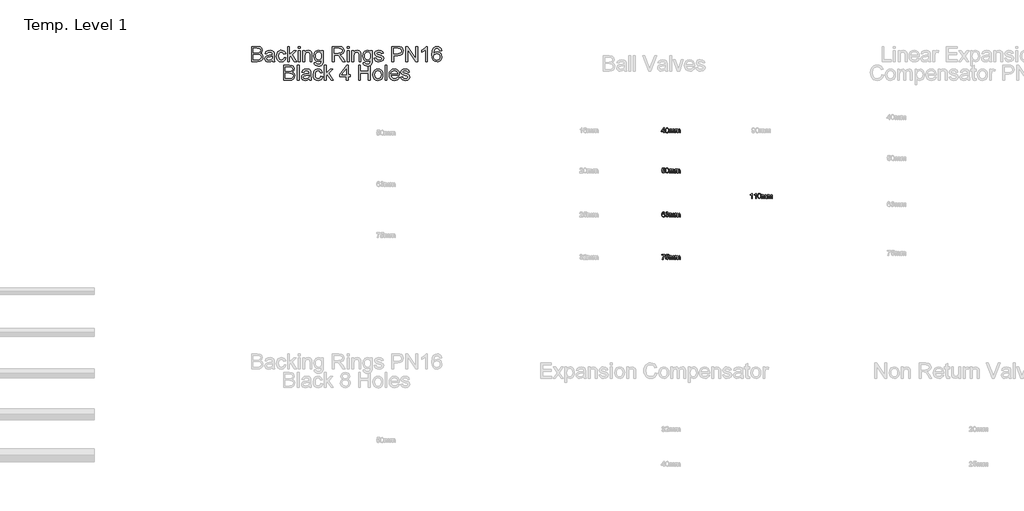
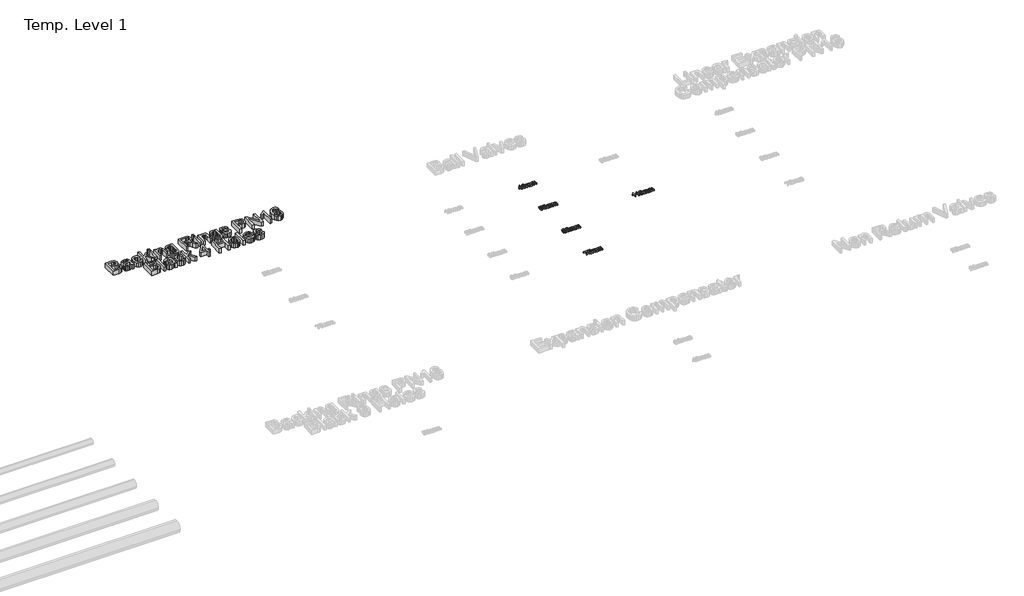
# One storey, part 55 of 62: 6 proxies.
"""IFC4 building model written with IfcOpenShell, lengths in millimetres."""

from ifc_helpers import new_model, si_unit, origin, origin_with_axes, place, context, project, spatial, polyline, outline, extrude, element, save

model = new_model("IFC4")

# Units and contexts
model_context = context("Model", 3, world=origin())
ifc_project = project(units=[si_unit("LENGTHUNIT", "METRE", prefix="MILLI")], contexts=[model_context])

# Site, building, storey
site = spatial("IfcSite", under=ifc_project)
building = spatial("IfcBuilding", under=site)
storey = spatial("IfcBuildingStorey", under=building, Name="Temp. Level 1", Elevation=0.0)

# Proxies
placement = place(None, origin())
element("IfcBuildingElementProxy", 1, Name="150mm Arial", ObjectType="150mm Arial", at=placement, inside=storey, context=model_context, shape_type="SweptSolid", body=[
    extrude(outline(polyline([(8496.1176365, 2020.9553291), (8496.1176365, 2168.6476368), (8552.4758096, 2168.6476368), (8580.0779731, 2164.3026849), (8589.3538144, 2158.7903652), (8596.37605, 2150.9433099), (8602.2714827, 2132.0490791), (8597.31355, 2114.7954734), (8582.3315788, 2101.7245599), (8592.7928168, 2096.2618195), (8600.5226846, 2087.9505214), (8605.2958216, 2077.3405455), (8606.8868673, 2064.9817714), (8602.5419154, 2045.1320118), (8591.7786942, 2030.9973964), (8575.7149923, 2023.4973964), (8552.0431173, 2020.9553291), (8496.1176365, 2020.9553291)]), holes=[polyline([(8514.579175, 2039.4168676), (8552.4397519, 2039.4168676), (8566.141675, 2040.1380214), (8577.7342231, 2044.1584541), (8585.4145115, 2052.3615791), (8588.4253288, 2064.801483), (8584.891675, 2079.1524445), (8573.4433577, 2087.7161464), (8550.6368673, 2090.1860984), (8514.579175, 2090.1860984), (8514.579175, 2039.4168676)]), polyline([(8514.579175, 2108.6476368), (8548.2931173, 2108.6476368), (8567.9806173, 2110.2341753), (8579.8255692, 2117.067108), (8583.8099442, 2129.0923484), (8580.0960019, 2141.1356176), (8569.4589827, 2148.2570118), (8545.7330212, 2150.1860984), (8514.579175, 2150.1860984), (8514.579175, 2108.6476368)])]), origin_with_axes(), (0.0, 0.0, 1.0), 50.0),
    extrude(outline(polyline([(8699.1945596, 2034.801483), (8681.2919154, 2022.2894638), (8661.5142712, 2018.6476368), (8646.0860861, 2020.8381416), (8634.7053769, 2027.4096561), (8627.6876486, 2037.3886224), (8625.3484058, 2049.801483), (8628.8820596, 2064.4048484), (8638.1669154, 2075.0058099), (8651.0935981, 2081.0635022), (8667.0671558, 2083.8399445), (8699.0863865, 2090.1860984), (8699.1945596, 2094.2966753), (8697.923526, 2102.535858), (8694.110425, 2107.926483), (8685.5827808, 2111.9288868), (8673.7017712, 2113.2630214), (8655.0238865, 2109.7113388), (8646.1176365, 2097.1091753), (8627.6560981, 2099.4168676), (8635.6428769, 2117.4457138), (8651.7246077, 2128.0106176), (8676.0815788, 2131.7245599), (8698.4553769, 2128.4433099), (8711.0935981, 2120.2041272), (8716.7546558, 2107.6740791), (8717.6560981, 2091.520233), (8717.6560981, 2068.551483), (8718.5935981, 2036.4781657), (8722.2714827, 2020.9553291), (8703.8099442, 2020.9553291), (8699.1945596, 2034.801483)]), holes=[polyline([(8699.1945596, 2071.7245599), (8669.4109058, 2066.0635022), (8653.5274923, 2063.0707138), (8646.3339827, 2058.2029253), (8643.8099442, 2051.0995599), (8649.3087423, 2041.1115791), (8665.4445596, 2037.1091753), (8684.1224442, 2041.5262426), (8696.1657135, 2052.2173484), (8699.0863865, 2066.4961945), (8699.1945596, 2071.7245599)])]), origin_with_axes(), (0.0, 0.0, 1.0), 50.0),
    extrude(outline(polyline([(8812.2714827, 2060.1860984), (8830.7330212, 2057.8784061), (8825.5857856, 2041.4586344), (8815.9133096, 2029.0502811), (8802.62605, 2021.2482979), (8786.6344635, 2018.6476368), (8766.9965428, 2022.2759421), (8751.6404731, 2033.160858), (8741.7291149, 2050.82462), (8738.4253288, 2074.7894638), (8744.0683577, 2105.4565311), (8751.1897519, 2116.9544277), (8761.2678769, 2125.1620599), (8773.3246678, 2130.0839349), (8786.3820596, 2131.7245599), (8801.9815188, 2129.4709541), (8814.4529731, 2122.7101368), (8823.399788, 2111.8026849), (8828.4253288, 2097.1091753), (8809.9637904, 2094.801483), (8801.4000885, 2108.629608), (8786.5262904, 2113.2630214), (8774.5957014, 2110.9823724), (8765.12605, 2104.1404253), (8758.946663, 2092.3675888), (8756.8868673, 2075.2942714), (8758.9015909, 2057.9910863), (8764.9457615, 2046.1776849), (8774.2441389, 2039.3763027), (8786.0214827, 2037.1091753), (8795.5812784, 2038.5244397), (8803.4193192, 2042.770233), (8809.1209418, 2049.9547282), (8812.2714827, 2060.1860984)])), origin_with_axes(), (0.0, 0.0, 1.0), 50.0),
    extrude(outline(polyline([(8846.8868673, 2020.9553291), (8846.8868673, 2168.6476368), (8865.3484058, 2168.6476368), (8865.3484058, 2089.2846561), (8906.7426365, 2129.4168676), (8932.2714827, 2129.4168676), (8890.3724442, 2088.7798484), (8934.579175, 2020.9553291), (8913.016675, 2020.9553291), (8877.1392712, 2075.9433099), (8865.3484058, 2064.5130214), (8865.3484058, 2020.9553291), (8846.8868673, 2020.9553291)])), origin_with_axes(), (0.0, 0.0, 1.0), 50.0),
    extrude(outline(polyline([(8950.7330212, 2020.9553291), (8950.7330212, 2129.4168676), (8969.1945596, 2129.4168676), (8969.1945596, 2020.9553291), (8950.7330212, 2020.9553291)])), origin_with_axes(), (0.0, 0.0, 1.0), 50.0),
    extrude(outline(polyline([(8950.7330212, 2150.1860984), (8950.7330212, 2168.6476368), (8969.1945596, 2168.6476368), (8969.1945596, 2150.1860984), (8950.7330212, 2150.1860984)])), origin_with_axes(), (0.0, 0.0, 1.0), 50.0),
    extrude(outline(polyline([(8996.8868673, 2020.9553291), (8996.8868673, 2129.4168676), (9015.3484058, 2129.4168676), (9015.3484058, 2114.2726368), (9029.4649923, 2127.3615791), (9048.7378288, 2131.7245599), (9066.1717231, 2128.2089349), (9078.0707615, 2118.9781657), (9083.6056173, 2105.4024445), (9084.579175, 2087.5538868), (9084.579175, 2020.9553291), (9066.1176365, 2020.9553291), (9066.1176365, 2085.0659061), (9063.9902327, 2101.4000407), (9056.4722038, 2110.035858), (9043.797925, 2113.2630214), (9032.9851245, 2111.4511224), (9023.7678769, 2106.0154253), (9017.4532736, 2095.5136224), (9015.3484058, 2078.5034061), (9015.3484058, 2020.9553291), (8996.8868673, 2020.9553291)])), origin_with_axes(), (0.0, 0.0, 1.0), 50.0),
    extrude(outline(polyline([(9105.3484058, 2011.7245599), (9123.8099442, 2009.4168676), (9129.7955212, 1999.6812907), (9147.7161942, 1995.5707138), (9166.610425, 2000.2221561), (9175.6248481, 2013.2750407), (9176.8868673, 2034.801483), (9163.8880692, 2024.4168676), (9148.0407135, 2020.9553291), (9129.0067591, 2024.9847763), (9114.81355, 2037.0731176), (9105.9839226, 2054.7954734), (9103.0407135, 2075.7269638), (9108.3231654, 2104.3387426), (9114.7865067, 2115.9538267), (9123.6116269, 2124.5851368), (9134.4965428, 2129.9397041), (9147.1392712, 2131.7245599), (9163.6086221, 2127.6860984), (9176.8868673, 2115.5707138), (9176.8868673, 2129.4168676), (9195.3484058, 2129.4168676), (9195.3484058, 2035.7750407), (9194.0863865, 2014.1539469), (9190.3003288, 1999.9156657), (9183.7783938, 1990.4730575), (9174.3087423, 1983.238983), (9162.0987063, 1978.6416272), (9147.3556173, 1977.1091753), (9130.1786341, 1979.2681296), (9116.6524923, 1985.7449926), (9107.9761101, 1996.5577931), (9105.3484058, 2011.7245599)]), holes=[polyline([(9121.5022519, 2076.988983), (9123.4719034, 2060.0553892), (9129.3808577, 2048.4132618), (9138.2645716, 2041.6659662), (9149.1585019, 2039.4168676), (9159.9713024, 2041.6524445), (9168.9000885, 2048.3591753), (9174.8901726, 2059.8525647), (9176.8868673, 2076.4481176), (9174.8315788, 2092.4532258), (9168.6657135, 2103.9781657), (9159.6062183, 2110.9418075), (9148.8700404, 2113.2630214), (9138.3276726, 2110.9778652), (9129.4890308, 2104.1223964), (9123.4989466, 2092.7687306), (9121.5022519, 2076.988983)])]), origin_with_axes(), (0.0, 0.0, 1.0), 50.0),
    extrude(outline(polyline([(9283.0407135, 2020.9553291), (9283.0407135, 2168.6476368), (9346.6825404, 2168.6476368), (9376.2318192, 2164.6632618), (9385.3273721, 2159.1464349), (9392.3856654, 2150.5647041), (9396.915413, 2139.9231777), (9398.4253288, 2128.2269638), (9395.9238264, 2113.6776849), (9388.4193192, 2101.6163868), (9375.6864466, 2092.7732378), (9357.4998481, 2087.8784061), (9367.9926365, 2079.9817714), (9382.9565788, 2060.9793676), (9407.5839827, 2020.9553291), (9386.1296558, 2020.9553291), (9366.9109058, 2051.5683099), (9353.0286942, 2071.832733), (9343.2750885, 2081.4060503), (9334.4950404, 2084.9216753), (9323.7859058, 2085.5707138), (9301.5022519, 2085.5707138), (9301.5022519, 2020.9553291), (9283.0407135, 2020.9553291)]), holes=[polyline([(9301.5022519, 2104.0322522), (9342.8243673, 2104.0322522), (9363.9000885, 2106.6464349), (9375.8712423, 2115.0118195), (9379.9637904, 2127.5418676), (9378.0121678, 2136.5472763), (9372.1573, 2143.8038868), (9362.0836822, 2148.5905455), (9347.4758096, 2150.1860984), (9301.5022519, 2150.1860984), (9301.5022519, 2104.0322522)])]), origin_with_axes(), (0.0, 0.0, 1.0), 50.0),
    extrude(outline(polyline([(9428.4253288, 2020.9553291), (9428.4253288, 2129.4168676), (9446.8868673, 2129.4168676), (9446.8868673, 2020.9553291), (9428.4253288, 2020.9553291)])), origin_with_axes(), (0.0, 0.0, 1.0), 50.0),
    extrude(outline(polyline([(9428.4253288, 2150.1860984), (9428.4253288, 2168.6476368), (9446.8868673, 2168.6476368), (9446.8868673, 2150.1860984), (9428.4253288, 2150.1860984)])), origin_with_axes(), (0.0, 0.0, 1.0), 50.0),
    extrude(outline(polyline([(9474.579175, 2020.9553291), (9474.579175, 2129.4168676), (9493.0407135, 2129.4168676), (9493.0407135, 2114.2726368), (9507.1573, 2127.3615791), (9526.4301365, 2131.7245599), (9543.8640308, 2128.2089349), (9555.7630692, 2118.9781657), (9561.297925, 2105.4024445), (9562.2714827, 2087.5538868), (9562.2714827, 2020.9553291), (9543.8099442, 2020.9553291), (9543.8099442, 2085.0659061), (9541.6825404, 2101.4000407), (9534.1645115, 2110.035858), (9521.4902327, 2113.2630214), (9510.6774322, 2111.4511224), (9501.4601846, 2106.0154253), (9495.1455813, 2095.5136224), (9493.0407135, 2078.5034061), (9493.0407135, 2020.9553291), (9474.579175, 2020.9553291)])), origin_with_axes(), (0.0, 0.0, 1.0), 50.0),
    extrude(outline(polyline([(9583.0407135, 2011.7245599), (9601.5022519, 2009.4168676), (9607.4878288, 1999.6812907), (9625.4085019, 1995.5707138), (9644.3027327, 2000.2221561), (9653.3171558, 2013.2750407), (9654.579175, 2034.801483), (9641.5803769, 2024.4168676), (9625.7330212, 2020.9553291), (9606.6990668, 2024.9847763), (9592.5058577, 2037.0731176), (9583.6762303, 2054.7954734), (9580.7330212, 2075.7269638), (9586.0154731, 2104.3387426), (9592.4788144, 2115.9538267), (9601.3039346, 2124.5851368), (9612.1888505, 2129.9397041), (9624.8315788, 2131.7245599), (9641.3009298, 2127.6860984), (9654.579175, 2115.5707138), (9654.579175, 2129.4168676), (9673.0407135, 2129.4168676), (9673.0407135, 2035.7750407), (9671.7786942, 2014.1539469), (9667.9926365, 1999.9156657), (9661.4707014, 1990.4730575), (9652.00105, 1983.238983), (9639.7910139, 1978.6416272), (9625.047925, 1977.1091753), (9607.8709418, 1979.2681296), (9594.3448, 1985.7449926), (9585.6684178, 1996.5577931), (9583.0407135, 2011.7245599)]), holes=[polyline([(9599.1945596, 2076.988983), (9601.1642111, 2060.0553892), (9607.0731654, 2048.4132618), (9615.9568793, 2041.6659662), (9626.8508096, 2039.4168676), (9637.6636101, 2041.6524445), (9646.5923962, 2048.3591753), (9652.5824803, 2059.8525647), (9654.579175, 2076.4481176), (9652.5238865, 2092.4532258), (9646.3580212, 2103.9781657), (9637.298526, 2110.9418075), (9626.5623481, 2113.2630214), (9616.0199803, 2110.9778652), (9607.1813385, 2104.1223964), (9601.1912543, 2092.7687306), (9599.1945596, 2076.988983)])]), origin_with_axes(), (0.0, 0.0, 1.0), 50.0),
    extrude(outline(polyline([(9693.8099442, 2053.2630214), (9712.2714827, 2055.5707138), (9715.1831413, 2047.6740791), (9720.8171558, 2041.8687907), (9740.3964827, 2037.1091753), (9759.2185981, 2041.4721561), (9765.3484058, 2051.7125407), (9759.1825404, 2060.0058099), (9740.1801365, 2065.270233), (9712.3796558, 2074.3026849), (9700.2462423, 2084.8495599), (9696.1176365, 2099.7413868), (9699.4349442, 2113.4973964), (9708.485425, 2124.0082138), (9720.2222038, 2129.4709541), (9736.1056173, 2131.7245599), (9758.5695596, 2128.1007618), (9772.8484058, 2118.2930695), (9779.1945596, 2101.7245599), (9760.7330212, 2099.4168676), (9753.7919154, 2109.6031657), (9737.547925, 2113.2630214), (9719.8796558, 2109.7654253), (9714.579175, 2101.6163868), (9716.7786942, 2096.2437907), (9723.6657135, 2092.1692714), (9739.5671558, 2088.238983), (9766.6645115, 2079.5490791), (9779.2486462, 2069.7053291), (9783.8099442, 2053.6596561), (9778.4553769, 2035.9913868), (9763.0046558, 2023.1728772), (9740.1440788, 2018.6476368), (9721.5292952, 2020.8291272), (9707.9445596, 2027.3735984), (9698.87605, 2038.2089349), (9693.8099442, 2053.2630214)])), origin_with_axes(), (0.0, 0.0, 1.0), 50.0),
    extrude(outline(polyline([(9864.579175, 2020.9553291), (9864.579175, 2168.6476368), (9919.3147519, 2168.6476368), (9941.3820596, 2167.2413868), (9959.3207615, 2160.3363388), (9970.9493673, 2146.0574926), (9975.3484058, 2125.9192714), (9972.3781534, 2108.5124205), (9963.4673962, 2094.0082138), (9946.8042351, 2084.2185503), (9920.5767712, 2080.9553291), (9883.0407135, 2080.9553291), (9883.0407135, 2020.9553291), (9864.579175, 2020.9553291)]), holes=[polyline([(9883.0407135, 2099.4168676), (9921.6585019, 2099.4168676), (9938.0286942, 2101.1115791), (9948.8460019, 2106.1957138), (9954.876651, 2114.3537666), (9956.8868673, 2125.270233), (9952.1452808, 2140.5586945), (9939.6873481, 2148.9240791), (9921.2258096, 2150.1860984), (9883.0407135, 2150.1860984), (9883.0407135, 2099.4168676)])]), origin_with_axes(), (0.0, 0.0, 1.0), 50.0),
    extrude(outline(polyline([(10000.7330212, 2020.9553291), (10000.7330212, 2168.6476368), (10020.4926365, 2168.6476368), (10097.6560981, 2051.6404253), (10097.6560981, 2168.6476368), (10116.1176365, 2168.6476368), (10116.1176365, 2020.9553291), (10096.3580212, 2020.9553291), (10019.1945596, 2137.9985984), (10019.1945596, 2020.9553291), (10000.7330212, 2020.9553291)])), origin_with_axes(), (0.0, 0.0, 1.0), 50.0),
    extrude(outline(polyline([(10210.7330212, 2020.9553291), (10192.2714827, 2020.9553291), (10192.2714827, 2136.051483), (10174.7835019, 2123.5935503), (10155.3484058, 2114.2726368), (10155.3484058, 2131.7245599), (10182.4097038, 2148.9961945), (10198.8339827, 2168.6476368), (10210.7330212, 2168.6476368), (10210.7330212, 2020.9553291)])), origin_with_axes(), (0.0, 0.0, 1.0), 50.0),
    extrude(outline(polyline([(10349.1945596, 2129.4168676), (10330.7330212, 2127.1091753), (10323.7378288, 2142.5058099), (10315.3634298, 2148.2660263), (10305.2402327, 2150.1860984), (10288.5815788, 2145.7149445), (10275.9794154, 2128.9300888), (10272.1527928, 2115.1785863), (10270.7330212, 2096.0274445), (10287.0130692, 2110.7570118), (10307.1873481, 2115.5707138), (10324.2426365, 2112.2804493), (10338.5575404, 2102.4096561), (10348.266074, 2087.3285263), (10351.5022519, 2068.4072522), (10349.9788144, 2055.1876008), (10345.4085019, 2042.9324926), (10338.1699202, 2032.5388628), (10328.641675, 2024.9036464), (10317.2564587, 2020.2116392), (10304.4469635, 2018.6476368), (10283.5019514, 2022.7942714), (10266.8207615, 2035.2341753), (10255.9088024, 2057.1933099), (10252.2714827, 2089.8976368), (10256.3099442, 2126.6674686), (10268.4253288, 2151.8086945), (10284.9667952, 2164.4379013), (10306.3940788, 2168.6476368), (10322.5929971, 2166.0424686), (10335.5647519, 2158.2269638), (10344.6512904, 2145.8141032), (10349.1945596, 2129.4168676)]), holes=[polyline([(10270.7330212, 2068.6957138), (10275.0058577, 2052.7041272), (10286.3640308, 2041.0935503), (10303.0046558, 2037.1091753), (10315.1876486, 2039.1734782), (10324.7654731, 2045.3663868), (10330.9719034, 2055.1019638), (10333.0407135, 2067.7942714), (10330.9989466, 2079.9772642), (10324.8736462, 2089.2666272), (10315.133562, 2095.1485383), (10302.2474442, 2097.1091753), (10290.0824803, 2095.1485383), (10279.9097038, 2089.2666272), (10273.0271918, 2080.2026248), (10270.7330212, 2068.6957138)])]), origin_with_axes(), (0.0, 0.0, 1.0), 50.0),
    extrude(outline(polyline([(8807.6560981, 1838.6476368), (8807.6560981, 1986.3399445), (8864.0142712, 1986.3399445), (8891.6164346, 1981.9949926), (8900.892276, 1976.4826729), (8907.9145115, 1968.6356176), (8913.8099442, 1949.7413868), (8908.8520115, 1932.4877811), (8893.8700404, 1919.4168676), (8904.3312784, 1913.9541272), (8912.0611462, 1905.6428291), (8916.8342832, 1895.0328532), (8918.4253288, 1882.6740791), (8914.0803769, 1862.8243195), (8903.3171558, 1848.6897041), (8887.2534538, 1841.1897041), (8863.5815788, 1838.6476368), (8807.6560981, 1838.6476368)]), holes=[polyline([(8826.1176365, 1926.3399445), (8859.8315788, 1926.3399445), (8879.5190788, 1927.926483), (8891.3640308, 1934.7594157), (8895.3484058, 1946.7846561), (8891.6344635, 1958.8279253), (8880.9974442, 1965.9493195), (8857.2714827, 1967.8784061), (8826.1176365, 1967.8784061), (8826.1176365, 1926.3399445)]), polyline([(8826.1176365, 1857.1091753), (8863.9782135, 1857.1091753), (8877.6801365, 1857.8303291), (8889.2726846, 1861.8507618), (8896.9529731, 1870.0538868), (8899.9637904, 1882.4937907), (8896.4301365, 1896.8447522), (8884.9818192, 1905.4084541), (8862.1753288, 1907.8784061), (8826.1176365, 1907.8784061), (8826.1176365, 1857.1091753)])]), origin_with_axes(), (0.0, 0.0, 1.0), 50.0),
    extrude(outline(polyline([(8941.5022519, 1838.6476368), (8941.5022519, 1986.3399445), (8959.9637904, 1986.3399445), (8959.9637904, 1838.6476368), (8941.5022519, 1838.6476368)])), origin_with_axes(), (0.0, 0.0, 1.0), 50.0),
    extrude(outline(polyline([(9056.8868673, 1852.4937907), (9038.9842231, 1839.9817714), (9019.2065788, 1836.3399445), (9003.7783938, 1838.5304493), (8992.3976846, 1845.1019638), (8985.3799563, 1855.0809301), (8983.0407135, 1867.4937907), (8986.5743673, 1882.0971561), (8995.8592231, 1892.6981176), (9008.7859058, 1898.7558099), (9024.7594635, 1901.5322522), (9056.7786942, 1907.8784061), (9056.8868673, 1911.988983), (9055.6158337, 1920.2281657), (9051.8027327, 1925.6187907), (9043.2750885, 1929.6211945), (9031.3940788, 1930.9553291), (9012.7161942, 1927.4036464), (9003.8099442, 1914.801483), (8985.3484058, 1917.1091753), (8993.3351846, 1935.1380214), (9009.4169154, 1945.7029253), (9033.7738865, 1949.4168676), (9056.1476846, 1946.1356176), (9068.7859058, 1937.8964349), (9074.4469635, 1925.3663868), (9075.3484058, 1909.2125407), (9075.3484058, 1886.2437907), (9076.2859058, 1854.1704734), (9079.9637904, 1838.6476368), (9061.5022519, 1838.6476368), (9056.8868673, 1852.4937907)]), holes=[polyline([(9056.8868673, 1889.4168676), (9027.1032135, 1883.7558099), (9011.2198, 1880.7630214), (9004.0262904, 1875.895233), (9001.5022519, 1868.7918676), (9007.00105, 1858.8038868), (9023.1368673, 1854.801483), (9041.8147519, 1859.2185503), (9053.8580212, 1869.9096561), (9056.7786942, 1884.1885022), (9056.8868673, 1889.4168676)])]), origin_with_axes(), (0.0, 0.0, 1.0), 50.0),
    extrude(outline(polyline([(9169.9637904, 1877.8784061), (9188.4253288, 1875.5707138), (9183.2780933, 1859.1509421), (9173.6056173, 1846.7425888), (9160.3183577, 1838.9406056), (9144.3267712, 1836.3399445), (9124.6888505, 1839.9682498), (9109.3327808, 1850.8531657), (9099.4214226, 1868.5169277), (9096.1176365, 1892.4817714), (9101.7606654, 1923.1488388), (9108.8820596, 1934.6467354), (9118.9601846, 1942.8543676), (9131.0169755, 1947.7762426), (9144.0743673, 1949.4168676), (9159.6738264, 1947.1632618), (9172.1452808, 1940.4024445), (9181.0920957, 1929.4949926), (9186.1176365, 1914.801483), (9167.6560981, 1912.4937907), (9159.0923962, 1926.3219157), (9144.2185981, 1930.9553291), (9132.2880091, 1928.6746801), (9122.8183577, 1921.832733), (9116.6389707, 1910.0598964), (9114.579175, 1892.9865791), (9116.5938986, 1875.683394), (9122.6380692, 1863.8699926), (9131.9364466, 1857.0686104), (9143.7137904, 1854.801483), (9153.2735861, 1856.2167474), (9161.1116269, 1860.4625407), (9166.8132495, 1867.6470359), (9169.9637904, 1877.8784061)])), origin_with_axes(), (0.0, 0.0, 1.0), 50.0),
    extrude(outline(polyline([(9204.579175, 1838.6476368), (9204.579175, 1986.3399445), (9223.0407135, 1986.3399445), (9223.0407135, 1906.9769638), (9264.4349442, 1947.1091753), (9289.9637904, 1947.1091753), (9248.0647519, 1906.4721561), (9292.2714827, 1838.6476368), (9270.7089827, 1838.6476368), (9234.8315788, 1893.6356176), (9223.0407135, 1882.2053291), (9223.0407135, 1838.6476368), (9204.579175, 1838.6476368)])), origin_with_axes(), (0.0, 0.0, 1.0), 50.0),
    extrude(outline(polyline([(9421.5022519, 1838.6476368), (9421.5022519, 1873.2630214), (9354.579175, 1873.2630214), (9354.579175, 1891.7245599), (9426.1176365, 1984.0322522), (9439.9637904, 1984.0322522), (9439.9637904, 1891.7245599), (9458.4253288, 1891.7245599), (9458.4253288, 1873.2630214), (9439.9637904, 1873.2630214), (9439.9637904, 1838.6476368), (9421.5022519, 1838.6476368)]), holes=[polyline([(9421.5022519, 1891.7245599), (9421.5022519, 1948.7678291), (9377.2955212, 1891.7245599), (9421.5022519, 1891.7245599)])]), origin_with_axes(), (0.0, 0.0, 1.0), 50.0),
    extrude(outline(polyline([(9539.1945596, 1838.6476368), (9539.1945596, 1986.3399445), (9557.6560981, 1986.3399445), (9557.6560981, 1926.3399445), (9636.1176365, 1926.3399445), (9636.1176365, 1986.3399445), (9654.579175, 1986.3399445), (9654.579175, 1838.6476368), (9636.1176365, 1838.6476368), (9636.1176365, 1907.8784061), (9557.6560981, 1907.8784061), (9557.6560981, 1838.6476368), (9539.1945596, 1838.6476368)])), origin_with_axes(), (0.0, 0.0, 1.0), 50.0),
    extrude(outline(polyline([(9679.9637904, 1892.8784061), (9683.9571798, 1919.0292474), (9695.9373481, 1937.4096561), (9710.7390308, 1946.4150647), (9728.4613865, 1949.4168676), (9747.8559178, 1945.761519), (9763.3472038, 1934.7954734), (9773.5019514, 1917.3841152), (9776.8868673, 1894.3928291), (9775.3904731, 1875.7419878), (9770.9012904, 1861.5442714), (9763.5500284, 1850.9117594), (9753.4673962, 1842.9565311), (9741.4917351, 1837.9940912), (9728.4613865, 1836.3399445), (9708.8324803, 1839.9817714), (9693.3592231, 1850.9072522), (9683.3126486, 1868.6836945), (9679.9637904, 1892.8784061)]), holes=[polyline([(9698.4253288, 1892.9144638), (9700.5617471, 1876.2062306), (9706.9710019, 1864.3026849), (9716.6164346, 1857.1767835), (9728.4613865, 1854.801483), (9740.2522519, 1857.1903051), (9749.8796558, 1864.3567714), (9756.2889106, 1876.4180695), (9758.4253288, 1893.4913868), (9756.2753889, 1909.7128412), (9749.8255692, 1921.4541272), (9740.1846438, 1928.5800287), (9728.4613865, 1930.9553291), (9716.6164346, 1928.5890431), (9706.9710019, 1921.4901849), (9700.5617471, 1909.6136825), (9698.4253288, 1892.9144638)])]), origin_with_axes(), (0.0, 0.0, 1.0), 50.0),
    extrude(outline(polyline([(9797.6560981, 1838.6476368), (9797.6560981, 1986.3399445), (9816.1176365, 1986.3399445), (9816.1176365, 1838.6476368), (9797.6560981, 1838.6476368)])), origin_with_axes(), (0.0, 0.0, 1.0), 50.0),
    extrude(outline(polyline([(9919.7474442, 1870.9553291), (9937.8484058, 1868.6476368), (9931.3264707, 1855.0088147), (9920.9193192, 1844.8135022), (9906.8613264, 1838.4583339), (9889.3868673, 1836.3399445), (9867.7252087, 1839.9952931), (9851.0575404, 1850.9613388), (9840.4295356, 1868.5259421), (9836.8868673, 1891.9769638), (9840.4655933, 1916.2167474), (9851.2017712, 1934.3447522), (9867.6440788, 1945.6488388), (9888.3411942, 1949.4168676), (9908.3937784, 1945.6578532), (9924.4169154, 1934.3808099), (9934.9232255, 1916.2888628), (9938.4253288, 1892.0851368), (9938.3171558, 1887.1091753), (9855.3484058, 1887.1091753), (9858.5440188, 1873.2900647), (9865.9673962, 1863.1308099), (9876.681038, 1856.8838147), (9889.7474442, 1854.801483), (9907.8484058, 1858.6596561), (9919.7474442, 1870.9553291)]), holes=[polyline([(9855.3484058, 1905.5707138), (9919.9637904, 1905.5707138), (9917.4667952, 1915.3243195), (9912.5719635, 1922.301483), (9901.8087423, 1928.7918676), (9888.2690788, 1930.9553291), (9875.8246678, 1929.2290671), (9865.5347038, 1924.0502811), (9858.3817591, 1915.9778652), (9855.3484058, 1905.5707138)])]), origin_with_axes(), (0.0, 0.0, 1.0), 50.0),
    extrude(outline(polyline([(9949.9637904, 1870.9553291), (9968.4253288, 1873.2630214), (9971.3369875, 1865.3663868), (9976.9710019, 1859.5610984), (9996.5503288, 1854.801483), (10015.3724442, 1859.1644638), (10021.5022519, 1869.4048484), (10015.3363865, 1877.6981176), (9996.3339827, 1882.9625407), (9968.5335019, 1891.9949926), (9956.4000885, 1902.5418676), (9952.2714827, 1917.4336945), (9955.5887904, 1931.1897041), (9964.6392712, 1941.7005214), (9976.37605, 1947.1632618), (9992.2594635, 1949.4168676), (10014.7234058, 1945.7930695), (10029.0022519, 1935.9853772), (10035.3484058, 1919.4168676), (10016.8868673, 1917.1091753), (10009.9457615, 1927.2954734), (9993.7017712, 1930.9553291), (9976.0335019, 1927.457733), (9970.7330212, 1919.3086945), (9972.9325404, 1913.9360984), (9979.8195596, 1909.8615791), (9995.7210019, 1905.9312907), (10022.8183577, 1897.2413868), (10035.4024923, 1887.3976368), (10039.9637904, 1871.3519638), (10034.6092231, 1853.6836945), (10019.1585019, 1840.8651849), (9996.297925, 1836.3399445), (9977.6831413, 1838.5214349), (9964.0984058, 1845.0659061), (9955.0298962, 1855.9012426), (9949.9637904, 1870.9553291)])), origin_with_axes(), (0.0, 0.0, 1.0), 50.0),
])
element("IfcBuildingElementProxy", 2, Name="50mm Arial", ObjectType="50mm Arial", at=placement, inside=storey, context=model_context, shape_type="SweptSolid", body=[
    extrude(outline(polyline([(12515.3245939, 1325.9372281), (12515.3245939, 1337.4756896), (12493.0169016, 1337.4756896), (12493.0169016, 1343.6295358), (12516.8630554, 1374.3987665), (12521.4784401, 1374.3987665), (12521.4784401, 1343.6295358), (12527.6322862, 1343.6295358), (12527.6322862, 1337.4756896), (12521.4784401, 1337.4756896), (12521.4784401, 1325.9372281), (12515.3245939, 1325.9372281)]), holes=[polyline([(12515.3245939, 1343.6295358), (12515.3245939, 1362.6439589), (12500.589017, 1343.6295358), (12515.3245939, 1343.6295358)])]), origin_with_axes(), (0.0, 0.0, 1.0), 15.0),
    extrude(outline(polyline([(12533.0169016, 1350.1559781), (12534.8257958, 1364.3206415), (12540.198392, 1372.4877089), (12549.1707477, 1375.1679973), (12556.3582477, 1373.5814589), (12561.3221901, 1369.0081415), (12564.2068054, 1361.7244877), (12565.3245939, 1350.1559781), (12563.5337285, 1336.0514108), (12558.1791612, 1327.8663146), (12549.1707477, 1325.1679973), (12537.9207477, 1329.8554973), (12534.2428631, 1338.1818194), (12533.0169016, 1350.1559781)]), holes=[polyline([(12539.1707477, 1350.1679973), (12542.0553631, 1334.8855454), (12549.1707477, 1331.3218435), (12556.2861324, 1334.8975646), (12559.1707477, 1350.1679973), (12556.3822862, 1365.2761704), (12549.0986324, 1369.0141512), (12542.151517, 1365.7208819), (12539.1707477, 1350.1679973)])]), origin_with_axes(), (0.0, 0.0, 1.0), 15.0),
    extrude(outline(polyline([(12572.2476708, 1325.9372281), (12572.2476708, 1362.0910742), (12578.401517, 1362.0910742), (12578.401517, 1356.141555), (12582.6322862, 1361.0153531), (12588.6539208, 1362.860305), (12594.8197862, 1360.9792954), (12598.2092093, 1355.7088627), (12603.010892, 1361.0724444), (12609.0745939, 1362.860305), (12617.1214689, 1359.8855454), (12619.9399785, 1350.7208819), (12619.9399785, 1325.9372281), (12613.7861324, 1325.9372281), (12613.7861324, 1348.0766512), (12613.2152189, 1353.2148723), (12611.1479112, 1355.7449204), (12607.6322862, 1356.7064589), (12601.5806035, 1354.2425165), (12599.1707477, 1346.3458819), (12599.1707477, 1325.9372281), (12593.0169016, 1325.9372281), (12593.0169016, 1348.7617473), (12591.5926227, 1354.7232858), (12586.9231516, 1356.7064589), (12582.3678631, 1355.3843435), (12579.339017, 1351.5141512), (12578.401517, 1344.1704012), (12578.401517, 1325.9372281), (12572.2476708, 1325.9372281)])), origin_with_axes(), (0.0, 0.0, 1.0), 15.0),
    extrude(outline(polyline([(12629.1707477, 1325.9372281), (12629.1707477, 1362.0910742), (12635.3245939, 1362.0910742), (12635.3245939, 1356.141555), (12639.5553631, 1361.0153531), (12645.5769977, 1362.860305), (12651.7428631, 1360.9792954), (12655.1322862, 1355.7088627), (12659.9339689, 1361.0724444), (12665.9976708, 1362.860305), (12674.0445458, 1359.8855454), (12676.8630554, 1350.7208819), (12676.8630554, 1325.9372281), (12670.7092093, 1325.9372281), (12670.7092093, 1348.0766512), (12670.1382958, 1353.2148723), (12668.0709881, 1355.7449204), (12664.5553631, 1356.7064589), (12658.5036804, 1354.2425165), (12656.0938247, 1346.3458819), (12656.0938247, 1325.9372281), (12649.9399785, 1325.9372281), (12649.9399785, 1348.7617473), (12648.5156997, 1354.7232858), (12643.8462285, 1356.7064589), (12639.2909401, 1355.3843435), (12636.2620939, 1351.5141512), (12635.3245939, 1344.1704012), (12635.3245939, 1325.9372281), (12629.1707477, 1325.9372281)])), origin_with_axes(), (0.0, 0.0, 1.0), 15.0),
])
element("IfcBuildingElementProxy", 3, Name="50mm Arial", ObjectType="50mm Arial", at=placement, inside=storey, context=model_context, shape_type="SweptSolid", body=[
    extrude(outline(polyline([(12495.3245939, 947.8784061), (12501.4784401, 948.6476368), (12504.5794016, 942.3074926), (12511.0096901, 940.1860984), (12518.7260362, 943.1368195), (12521.4784401, 950.9673484), (12518.9003151, 958.2750407), (12511.1058439, 960.9553291), (12505.7031997, 959.8856176), (12502.2476708, 957.1091753), (12496.0938247, 957.8784061), (12501.4784401, 983.2630214), (12525.3245939, 983.2630214), (12525.3245939, 977.1091753), (12506.4544016, 977.1091753), (12503.8221901, 963.551483), (12512.8245939, 967.1091753), (12523.3474304, 962.6981176), (12527.6322862, 951.3519638), (12523.7741131, 939.9336945), (12518.2332477, 935.5076128), (12510.9856516, 934.0322522), (12500.1262766, 937.8243195), (12495.3245939, 947.8784061)])), origin_with_axes(), (0.0, 0.0, 1.0), 15.0),
    extrude(outline(polyline([(12533.0169016, 959.020233), (12534.8257958, 973.1848964), (12540.198392, 981.3519638), (12549.1707477, 984.0322522), (12556.3582477, 982.4457138), (12561.3221901, 977.8723964), (12564.2068054, 970.5887426), (12565.3245939, 959.020233), (12563.5337285, 944.9156657), (12558.1791612, 936.7305695), (12549.1707477, 934.0322522), (12537.9207477, 938.7197522), (12534.2428631, 947.0460743), (12533.0169016, 959.020233)]), holes=[polyline([(12539.1707477, 959.0322522), (12542.0553631, 943.7498003), (12549.1707477, 940.1860984), (12556.2861324, 943.7618195), (12559.1707477, 959.0322522), (12556.3822862, 974.1404253), (12549.0986324, 977.8784061), (12542.151517, 974.5851368), (12539.1707477, 959.0322522)])]), origin_with_axes(), (0.0, 0.0, 1.0), 15.0),
    extrude(outline(polyline([(12572.2476708, 934.801483), (12572.2476708, 970.9553291), (12578.401517, 970.9553291), (12578.401517, 965.0058099), (12582.6322862, 969.879608), (12588.6539208, 971.7245599), (12594.8197862, 969.8435503), (12598.2092093, 964.5731176), (12603.010892, 969.9366993), (12609.0745939, 971.7245599), (12617.1214689, 968.7498003), (12619.9399785, 959.5851368), (12619.9399785, 934.801483), (12613.7861324, 934.801483), (12613.7861324, 956.9409061), (12613.2152189, 962.0791272), (12611.1479112, 964.6091753), (12607.6322862, 965.5707138), (12601.5806035, 963.1067714), (12599.1707477, 955.2101368), (12599.1707477, 934.801483), (12593.0169016, 934.801483), (12593.0169016, 957.6260022), (12591.5926227, 963.5875407), (12586.9231516, 965.5707138), (12582.3678631, 964.2485984), (12579.339017, 960.3784061), (12578.401517, 953.0346561), (12578.401517, 934.801483), (12572.2476708, 934.801483)])), origin_with_axes(), (0.0, 0.0, 1.0), 15.0),
    extrude(outline(polyline([(12629.1707477, 934.801483), (12629.1707477, 970.9553291), (12635.3245939, 970.9553291), (12635.3245939, 965.0058099), (12639.5553631, 969.879608), (12645.5769977, 971.7245599), (12651.7428631, 969.8435503), (12655.1322862, 964.5731176), (12659.9339689, 969.9366993), (12665.9976708, 971.7245599), (12674.0445458, 968.7498003), (12676.8630554, 959.5851368), (12676.8630554, 934.801483), (12670.7092093, 934.801483), (12670.7092093, 956.9409061), (12670.1382958, 962.0791272), (12668.0709881, 964.6091753), (12664.5553631, 965.5707138), (12658.5036804, 963.1067714), (12656.0938247, 955.2101368), (12656.0938247, 934.801483), (12649.9399785, 934.801483), (12649.9399785, 957.6260022), (12648.5156997, 963.5875407), (12643.8462285, 965.5707138), (12639.2909401, 964.2485984), (12636.2620939, 960.3784061), (12635.3245939, 953.0346561), (12635.3245939, 934.801483), (12629.1707477, 934.801483)])), origin_with_axes(), (0.0, 0.0, 1.0), 15.0),
])
element("IfcBuildingElementProxy", 4, Name="50mm Arial", ObjectType="50mm Arial", at=placement, inside=storey, context=model_context, shape_type="SweptSolid", body=[
    extrude(outline(polyline([(12526.8630554, 540.9553291), (12520.7092093, 540.1860984), (12518.3774785, 545.3183099), (12512.2116131, 547.8784061), (12506.6587285, 546.3880214), (12502.4580074, 540.7930695), (12500.7092093, 529.8255214), (12506.135892, 534.7353772), (12512.8606516, 536.3399445), (12523.3173824, 531.9529253), (12527.6322862, 520.6187907), (12525.6010362, 512.1272041), (12520.0120939, 506.1175888), (12511.9471901, 504.0322522), (12499.4051227, 509.5610984), (12495.767803, 516.8808099), (12494.5553631, 527.7822522), (12495.901517, 540.0388628), (12499.9399785, 548.4192714), (12505.4538006, 552.629007), (12512.5962285, 554.0322522), (12522.3197862, 550.5586945), (12526.8630554, 540.9553291)]), holes=[polyline([(12500.7092093, 520.7149445), (12502.1334881, 515.3844157), (12505.9195458, 511.5142234), (12511.4664208, 510.1860984), (12518.7200266, 512.9385022), (12521.4784401, 520.4144638), (12518.7560843, 527.5719157), (12511.214017, 530.1860984), (12503.7681035, 527.5719157), (12500.7092093, 520.7149445)])]), origin_with_axes(), (0.0, 0.0, 1.0), 15.0),
    extrude(outline(polyline([(12533.0169016, 517.8784061), (12539.1707477, 518.6476368), (12542.5661804, 512.1692714), (12548.9183439, 510.1860984), (12556.3943054, 512.9144638), (12559.1707477, 519.6692714), (12556.4183439, 526.0334541), (12549.4231516, 528.551483), (12545.1082477, 527.8784061), (12545.7933439, 534.0322522), (12553.7620939, 535.7269638), (12556.8630554, 541.1596561), (12554.6154593, 545.973358), (12548.8221901, 547.8784061), (12542.9568054, 545.9553291), (12539.9399785, 540.1860984), (12533.7861324, 540.9553291), (12538.8221901, 550.6067714), (12548.6058439, 554.0322522), (12556.0277189, 552.3435503), (12561.2200266, 547.7281657), (12563.0169016, 541.520233), (12561.3101708, 535.8471561), (12556.2620939, 531.7726368), (12562.9688247, 527.5659061), (12565.3245939, 519.5610984), (12560.6130554, 508.551483), (12548.7019977, 504.0322522), (12537.9087285, 507.8904253), (12533.0169016, 517.8784061)])), origin_with_axes(), (0.0, 0.0, 1.0), 15.0),
    extrude(outline(polyline([(12572.2476708, 504.801483), (12572.2476708, 540.9553291), (12578.401517, 540.9553291), (12578.401517, 535.0058099), (12582.6322862, 539.879608), (12588.6539208, 541.7245599), (12594.8197862, 539.8435503), (12598.2092093, 534.5731176), (12603.010892, 539.9366993), (12609.0745939, 541.7245599), (12617.1214689, 538.7498003), (12619.9399785, 529.5851368), (12619.9399785, 504.801483), (12613.7861324, 504.801483), (12613.7861324, 526.9409061), (12613.2152189, 532.0791272), (12611.1479112, 534.6091753), (12607.6322862, 535.5707138), (12601.5806035, 533.1067714), (12599.1707477, 525.2101368), (12599.1707477, 504.801483), (12593.0169016, 504.801483), (12593.0169016, 527.6260022), (12591.5926227, 533.5875407), (12586.9231516, 535.5707138), (12582.3678631, 534.2485984), (12579.339017, 530.3784061), (12578.401517, 523.0346561), (12578.401517, 504.801483), (12572.2476708, 504.801483)])), origin_with_axes(), (0.0, 0.0, 1.0), 15.0),
    extrude(outline(polyline([(12629.1707477, 504.801483), (12629.1707477, 540.9553291), (12635.3245939, 540.9553291), (12635.3245939, 535.0058099), (12639.5553631, 539.879608), (12645.5769977, 541.7245599), (12651.7428631, 539.8435503), (12655.1322862, 534.5731176), (12659.9339689, 539.9366993), (12665.9976708, 541.7245599), (12674.0445458, 538.7498003), (12676.8630554, 529.5851368), (12676.8630554, 504.801483), (12670.7092093, 504.801483), (12670.7092093, 526.9409061), (12670.1382958, 532.0791272), (12668.0709881, 534.6091753), (12664.5553631, 535.5707138), (12658.5036804, 533.1067714), (12656.0938247, 525.2101368), (12656.0938247, 504.801483), (12649.9399785, 504.801483), (12649.9399785, 527.6260022), (12648.5156997, 533.5875407), (12643.8462285, 535.5707138), (12639.2909401, 534.2485984), (12636.2620939, 530.3784061), (12635.3245939, 523.0346561), (12635.3245939, 504.801483), (12629.1707477, 504.801483)])), origin_with_axes(), (0.0, 0.0, 1.0), 15.0),
])
element("IfcBuildingElementProxy", 5, Name="50mm Arial", ObjectType="50mm Arial", at=placement, inside=storey, context=model_context, shape_type="SweptSolid", body=[
    extrude(outline(polyline([(12495.3245939, 132.1091753), (12495.3245939, 138.2630214), (12527.6322862, 138.2630214), (12527.6322862, 133.2870599), (12518.4676227, 120.0478772), (12511.4544016, 103.1788868), (12509.1707477, 89.801483), (12503.0169016, 89.801483), (12505.4628151, 103.6836945), (12512.1755554, 119.3748003), (12521.4784401, 132.1091753), (12495.3245939, 132.1091753)])), origin_with_axes(), (0.0, 0.0, 1.0), 15.0),
    extrude(outline(polyline([(12533.0169016, 102.8784061), (12539.1707477, 103.6476368), (12542.2717093, 97.3074926), (12548.7019977, 95.1860984), (12556.4183439, 98.1368195), (12559.1707477, 105.9673484), (12556.5926227, 113.2750407), (12548.7981516, 115.9553291), (12543.3955074, 114.8856176), (12539.9399785, 112.1091753), (12533.7861324, 112.8784061), (12539.1707477, 138.2630214), (12563.0169016, 138.2630214), (12563.0169016, 132.1091753), (12544.1467093, 132.1091753), (12541.5144977, 118.551483), (12550.5169016, 122.1091753), (12561.0397381, 117.6981176), (12565.3245939, 106.3519638), (12561.4664208, 94.9336945), (12555.9255554, 90.5076128), (12548.6779593, 89.0322522), (12537.8185843, 92.8243195), (12533.0169016, 102.8784061)])), origin_with_axes(), (0.0, 0.0, 1.0), 15.0),
    extrude(outline(polyline([(12572.2476708, 89.801483), (12572.2476708, 125.9553291), (12578.401517, 125.9553291), (12578.401517, 120.0058099), (12582.6322862, 124.879608), (12588.6539208, 126.7245599), (12594.8197862, 124.8435503), (12598.2092093, 119.5731176), (12603.010892, 124.9366993), (12609.0745939, 126.7245599), (12617.1214689, 123.7498003), (12619.9399785, 114.5851368), (12619.9399785, 89.801483), (12613.7861324, 89.801483), (12613.7861324, 111.9409061), (12613.2152189, 117.0791272), (12611.1479112, 119.6091753), (12607.6322862, 120.5707138), (12601.5806035, 118.1067714), (12599.1707477, 110.2101368), (12599.1707477, 89.801483), (12593.0169016, 89.801483), (12593.0169016, 112.6260022), (12591.5926227, 118.5875407), (12586.9231516, 120.5707138), (12582.3678631, 119.2485984), (12579.339017, 115.3784061), (12578.401517, 108.0346561), (12578.401517, 89.801483), (12572.2476708, 89.801483)])), origin_with_axes(), (0.0, 0.0, 1.0), 15.0),
    extrude(outline(polyline([(12629.1707477, 89.801483), (12629.1707477, 125.9553291), (12635.3245939, 125.9553291), (12635.3245939, 120.0058099), (12639.5553631, 124.879608), (12645.5769977, 126.7245599), (12651.7428631, 124.8435503), (12655.1322862, 119.5731176), (12659.9339689, 124.9366993), (12665.9976708, 126.7245599), (12674.0445458, 123.7498003), (12676.8630554, 114.5851368), (12676.8630554, 89.801483), (12670.7092093, 89.801483), (12670.7092093, 111.9409061), (12670.1382958, 117.0791272), (12668.0709881, 119.6091753), (12664.5553631, 120.5707138), (12658.5036804, 118.1067714), (12656.0938247, 110.2101368), (12656.0938247, 89.801483), (12649.9399785, 89.801483), (12649.9399785, 112.6260022), (12648.5156997, 118.5875407), (12643.8462285, 120.5707138), (12639.2909401, 119.2485984), (12636.2620939, 115.3784061), (12635.3245939, 108.0346561), (12635.3245939, 89.801483), (12629.1707477, 89.801483)])), origin_with_axes(), (0.0, 0.0, 1.0), 15.0),
])
element("IfcBuildingElementProxy", 6, Name="50mm Arial", ObjectType="50mm Arial", at=placement, inside=storey, context=model_context, shape_type="SweptSolid", body=[
    extrude(outline(polyline([(13379.5553631, 684.801483), (13373.401517, 684.801483), (13373.401517, 723.1668676), (13367.5721901, 719.0142234), (13361.0938247, 715.9072522), (13361.0938247, 721.7245599), (13370.1142574, 727.4817714), (13375.589017, 734.0322522), (13379.5553631, 734.0322522), (13379.5553631, 684.801483)])), origin_with_axes(), (0.0, 0.0, 1.0), 15.0),
    extrude(outline(polyline([(13417.2476708, 684.801483), (13411.0938247, 684.801483), (13411.0938247, 723.1668676), (13405.2644977, 719.0142234), (13398.7861324, 715.9072522), (13398.7861324, 721.7245599), (13407.8065651, 727.4817714), (13413.2813247, 734.0322522), (13417.2476708, 734.0322522), (13417.2476708, 684.801483)])), origin_with_axes(), (0.0, 0.0, 1.0), 15.0),
    extrude(outline(polyline([(13431.8630554, 709.020233), (13433.6719497, 723.1848964), (13439.0445458, 731.3519638), (13448.0169016, 734.0322522), (13455.2044016, 732.4457138), (13460.1683439, 727.8723964), (13463.0529593, 720.5887426), (13464.1707477, 709.020233), (13462.3798824, 694.9156657), (13457.0253151, 686.7305695), (13448.0169016, 684.0322522), (13436.7669016, 688.7197522), (13433.089017, 697.0460743), (13431.8630554, 709.020233)]), holes=[polyline([(13438.0169016, 709.0322522), (13440.901517, 693.7498003), (13448.0169016, 690.1860984), (13455.1322862, 693.7618195), (13458.0169016, 709.0322522), (13455.2284401, 724.1404253), (13447.9447862, 727.8784061), (13440.9976708, 724.5851368), (13438.0169016, 709.0322522)])]), origin_with_axes(), (0.0, 0.0, 1.0), 15.0),
    extrude(outline(polyline([(13471.0938247, 684.801483), (13471.0938247, 720.9553291), (13477.2476708, 720.9553291), (13477.2476708, 715.0058099), (13481.4784401, 719.879608), (13487.5000747, 721.7245599), (13493.6659401, 719.8435503), (13497.0553631, 714.5731176), (13501.8570458, 719.9366993), (13507.9207477, 721.7245599), (13515.9676227, 718.7498003), (13518.7861324, 709.5851368), (13518.7861324, 684.801483), (13512.6322862, 684.801483), (13512.6322862, 706.9409061), (13512.0613727, 712.0791272), (13509.9940651, 714.6091753), (13506.4784401, 715.5707138), (13500.4267574, 713.1067714), (13498.0169016, 705.2101368), (13498.0169016, 684.801483), (13491.8630554, 684.801483), (13491.8630554, 707.6260022), (13490.4387766, 713.5875407), (13485.7693054, 715.5707138), (13481.214017, 714.2485984), (13478.1851708, 710.3784061), (13477.2476708, 703.0346561), (13477.2476708, 684.801483), (13471.0938247, 684.801483)])), origin_with_axes(), (0.0, 0.0, 1.0), 15.0),
    extrude(outline(polyline([(13528.0169016, 684.801483), (13528.0169016, 720.9553291), (13534.1707477, 720.9553291), (13534.1707477, 715.0058099), (13538.401517, 719.879608), (13544.4231516, 721.7245599), (13550.589017, 719.8435503), (13553.9784401, 714.5731176), (13558.7801227, 719.9366993), (13564.8438247, 721.7245599), (13572.8906997, 718.7498003), (13575.7092093, 709.5851368), (13575.7092093, 684.801483), (13569.5553631, 684.801483), (13569.5553631, 706.9409061), (13568.9844497, 712.0791272), (13566.917142, 714.6091753), (13563.401517, 715.5707138), (13557.3498343, 713.1067714), (13554.9399785, 705.2101368), (13554.9399785, 684.801483), (13548.7861324, 684.801483), (13548.7861324, 707.6260022), (13547.3618535, 713.5875407), (13542.6923824, 715.5707138), (13538.1370939, 714.2485984), (13535.1082477, 710.3784061), (13534.1707477, 703.0346561), (13534.1707477, 684.801483), (13528.0169016, 684.801483)])), origin_with_axes(), (0.0, 0.0, 1.0), 15.0),
])

save(model, "model.ifc")
